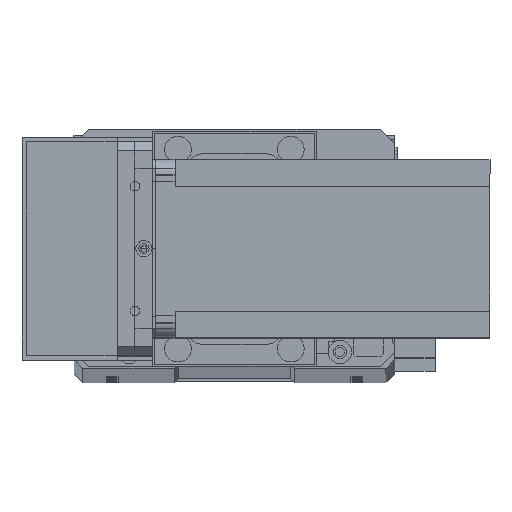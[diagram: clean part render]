
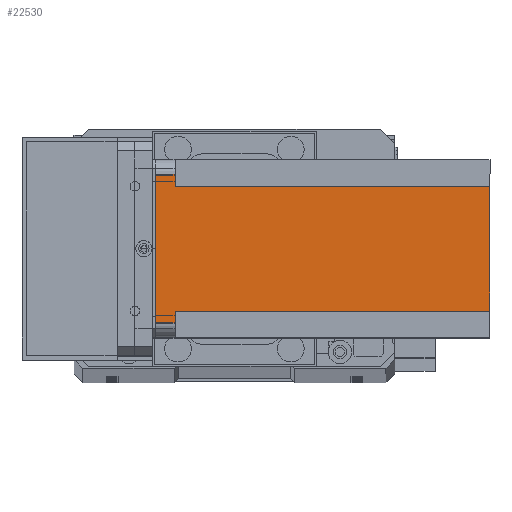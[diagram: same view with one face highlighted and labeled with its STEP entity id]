
A CAD part, top view. The second image highlights one B-rep face of the part: STEP entity #22530.
In plain terms, the highlighted planar face has unit normal (0, 0, 1) as drawn and (1, 0, 0) by its records, which use the part's own axes.
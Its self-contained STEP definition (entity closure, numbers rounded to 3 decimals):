
#158 = CARTESIAN_POINT ( 'NONE',  ( 60., 5., -6.5 ) ) ;
#419 = ORIENTED_EDGE ( 'NONE', *, *, #5928, .F. ) ;
#614 = CARTESIAN_POINT ( 'NONE',  ( 60., 0., -112.5 ) ) ;
#1081 = ORIENTED_EDGE ( 'NONE', *, *, #27466, .T. ) ;
#1213 = ORIENTED_EDGE ( 'NONE', *, *, #13157, .F. ) ;
#1795 = DIRECTION ( 'NONE',  ( 0., 0., 1. ) ) ;
#3363 = VECTOR ( 'NONE', #16914, 1000. ) ;
#3894 = VERTEX_POINT ( 'NONE', #10611 ) ;
#4336 = EDGE_CURVE ( 'NONE', #23071, #32330, #28438, .T. ) ;
#4575 = CARTESIAN_POINT ( 'NONE',  ( 60., 0., -112.5 ) ) ;
#4895 = ORIENTED_EDGE ( 'NONE', *, *, #10902, .F. ) ;
#5107 = ORIENTED_EDGE ( 'NONE', *, *, #19331, .T. ) ;
#5725 = AXIS2_PLACEMENT_3D ( 'NONE', #4575, #26089, #28898 ) ;
#5928 = EDGE_CURVE ( 'NONE', #21805, #3894, #24946, .T. ) ;
#6051 = CARTESIAN_POINT ( 'NONE',  ( 60., 5., -112.5 ) ) ;
#6078 = LINE ( 'NONE', #6262, #12448 ) ;
#6262 = CARTESIAN_POINT ( 'NONE',  ( 60., 0., 0. ) ) ;
#6273 = LINE ( 'NONE', #614, #34139 ) ;
#8146 = DIRECTION ( 'NONE',  ( 0., -1., 0. ) ) ;
#10598 = LINE ( 'NONE', #6051, #3363 ) ;
#10611 = CARTESIAN_POINT ( 'NONE',  ( 60., 9., -6.5 ) ) ;
#10902 = EDGE_CURVE ( 'NONE', #23071, #21569, #33564, .T. ) ;
#11361 = CARTESIAN_POINT ( 'NONE',  ( 60., 60., -6.5 ) ) ;
#12448 = VECTOR ( 'NONE', #16998, 1000. ) ;
#13157 = EDGE_CURVE ( 'NONE', #3894, #23265, #24638, .T. ) ;
#15588 = CARTESIAN_POINT ( 'NONE',  ( 60., 9., -112.5 ) ) ;
#15706 = DIRECTION ( 'NONE',  ( 0., 0., 1. ) ) ;
#15776 = VERTEX_POINT ( 'NONE', #17158 ) ;
#15821 = CARTESIAN_POINT ( 'NONE',  ( 60., 51., -112.5 ) ) ;
#16646 = DIRECTION ( 'NONE',  ( 0., -1., 0. ) ) ;
#16914 = DIRECTION ( 'NONE',  ( 0., 0., -1. ) ) ;
#16998 = DIRECTION ( 'NONE',  ( 0., 1., 0. ) ) ;
#17158 = CARTESIAN_POINT ( 'NONE',  ( 60., 5., 0. ) ) ;
#17283 = CARTESIAN_POINT ( 'NONE',  ( 60., 51., -112.5 ) ) ;
#17750 = VECTOR ( 'NONE', #15706, 1000. ) ;
#19088 = VECTOR ( 'NONE', #25446, 1000. ) ;
#19331 = EDGE_CURVE ( 'NONE', #21805, #22090, #6273, .T. ) ;
#19524 = DIRECTION ( 'NONE',  ( 0., 1., 0. ) ) ;
#20929 = FACE_OUTER_BOUND ( 'NONE', #25110, .T. ) ;
#21277 = CARTESIAN_POINT ( 'NONE',  ( 60., 55., 0. ) ) ;
#21569 = VERTEX_POINT ( 'NONE', #21782 ) ;
#21782 = CARTESIAN_POINT ( 'NONE',  ( 60., 51., -6.5 ) ) ;
#21805 = VERTEX_POINT ( 'NONE', #30837 ) ;
#22090 = VERTEX_POINT ( 'NONE', #15821 ) ;
#22530 = ADVANCED_FACE ( 'NONE', ( #20929 ), #26209, .T. ) ;
#23071 = VERTEX_POINT ( 'NONE', #26416 ) ;
#23265 = VERTEX_POINT ( 'NONE', #158 ) ;
#24188 = ORIENTED_EDGE ( 'NONE', *, *, #31972, .F. ) ;
#24638 = LINE ( 'NONE', #29755, #30974 ) ;
#24946 = LINE ( 'NONE', #15588, #17750 ) ;
#25110 = EDGE_LOOP ( 'NONE', ( #4895, #26825, #24188, #1081, #1213, #419, #5107, #31821 ) ) ;
#25446 = DIRECTION ( 'NONE',  ( 0., 0., -1. ) ) ;
#25573 = VECTOR ( 'NONE', #16646, 1000. ) ;
#26089 = DIRECTION ( 'NONE',  ( 1., 0., 0. ) ) ;
#26209 = PLANE ( 'NONE',  #5725 ) ;
#26299 = LINE ( 'NONE', #17283, #19088 ) ;
#26416 = CARTESIAN_POINT ( 'NONE',  ( 60., 55., -6.5 ) ) ;
#26825 = ORIENTED_EDGE ( 'NONE', *, *, #4336, .T. ) ;
#27466 = EDGE_CURVE ( 'NONE', #15776, #23265, #10598, .T. ) ;
#27583 = VECTOR ( 'NONE', #1795, 1000. ) ;
#28438 = LINE ( 'NONE', #31330, #27583 ) ;
#28898 = DIRECTION ( 'NONE',  ( 0., 1., 0. ) ) ;
#29755 = CARTESIAN_POINT ( 'NONE',  ( 60., 0., -6.5 ) ) ;
#30837 = CARTESIAN_POINT ( 'NONE',  ( 60., 9., -112.5 ) ) ;
#30974 = VECTOR ( 'NONE', #8146, 1000. ) ;
#31330 = CARTESIAN_POINT ( 'NONE',  ( 60., 55., -112.5 ) ) ;
#31821 = ORIENTED_EDGE ( 'NONE', *, *, #33161, .F. ) ;
#31972 = EDGE_CURVE ( 'NONE', #15776, #32330, #6078, .T. ) ;
#32330 = VERTEX_POINT ( 'NONE', #21277 ) ;
#33161 = EDGE_CURVE ( 'NONE', #21569, #22090, #26299, .T. ) ;
#33564 = LINE ( 'NONE', #11361, #25573 ) ;
#34139 = VECTOR ( 'NONE', #19524, 1000. ) ;
